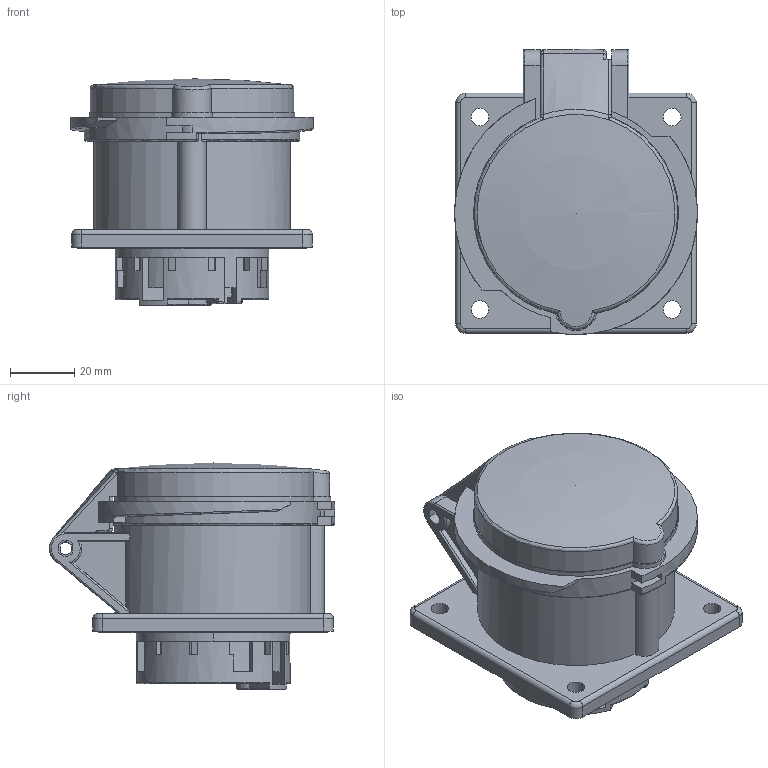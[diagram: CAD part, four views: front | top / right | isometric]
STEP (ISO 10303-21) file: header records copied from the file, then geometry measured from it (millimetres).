
FILE_DESCRIPTION(('FreeCAD Model'),'2;1');
FILE_NAME('Open CASCADE Shape Model','2026-02-04T10:31:58',(''),(''), 'Open CASCADE STEP processor 7.8','FreeCAD','Unknown');
FILE_SCHEMA(('AUTOMOTIVE_DESIGN { 1 0 10303 214 1 1 1 1 }'));
Length unit declared in the file: millimetre
Products named in the file (5): TL3R16453; Terminais; Tampa; Base interna; Tomada
Assembly tree (4 placements, depth 2):
  TL3R16453
    Terminais
    Tampa
    Base interna
    Tomada
Bounding box: 75.78 x 88.99 x 70.6 mm (x, y, z)
Volume: 207940.9 mm3; surface area: 59858.7 mm2
Topology: 4 solids, 12 shells, 766 faces, 2053 edges, 1344 vertices
Faces by surface type: plane 459, cylinder 200, torus 41, bspline 25, sphere 25, cone 16
Full cylindrical faces by diameter (mm): 7.5 x1
Entity records: 26558 total; most frequent: CARTESIAN_POINT 7012, ORIENTED_EDGE 4104, DIRECTION 4038, EDGE_CURVE 2052, AXIS2_PLACEMENT_3D 1389, VERTEX_POINT 1344, LINE 1260, VECTOR 1260
